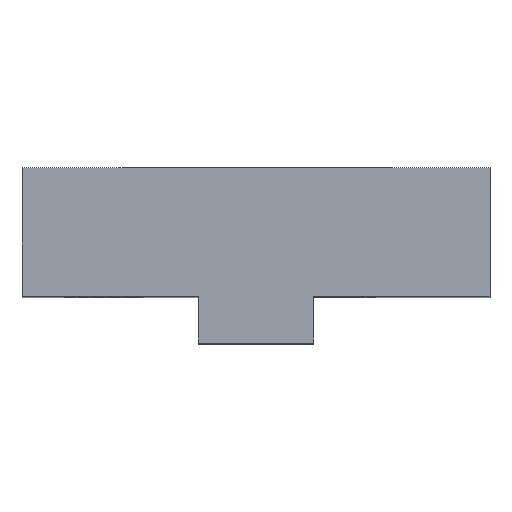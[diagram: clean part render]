
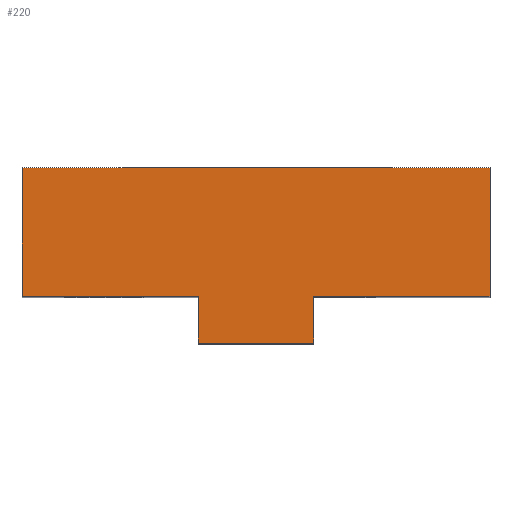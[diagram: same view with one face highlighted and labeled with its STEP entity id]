
A CAD part, top view. The second image highlights one B-rep face of the part: STEP entity #220.
In plain terms, the highlighted planar face has unit normal (0, 0, 1).
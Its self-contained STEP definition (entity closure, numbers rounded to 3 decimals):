
#220=ADVANCED_FACE('',(#275),#258,.T.);
#258=PLANE('',#679);
#275=FACE_OUTER_BOUND('',#286,.T.);
#286=EDGE_LOOP('',(#365,#366,#367,#368,#369,#370,#371,#372,#373));
#365=ORIENTED_EDGE('',*,*,#552,.F.);
#366=ORIENTED_EDGE('',*,*,#553,.F.);
#367=ORIENTED_EDGE('',*,*,#554,.F.);
#368=ORIENTED_EDGE('',*,*,#555,.F.);
#369=ORIENTED_EDGE('',*,*,#556,.F.);
#370=ORIENTED_EDGE('',*,*,#550,.F.);
#371=ORIENTED_EDGE('',*,*,#557,.T.);
#372=ORIENTED_EDGE('',*,*,#558,.F.);
#373=ORIENTED_EDGE('',*,*,#559,.F.);
#497=VERTEX_POINT('',#949);
#498=VERTEX_POINT('',#951);
#499=VERTEX_POINT('',#955);
#500=VERTEX_POINT('',#956);
#501=VERTEX_POINT('',#958);
#502=VERTEX_POINT('',#960);
#503=VERTEX_POINT('',#962);
#504=VERTEX_POINT('',#965);
#505=VERTEX_POINT('',#967);
#550=EDGE_CURVE('',#497,#498,#616,.T.);
#552=EDGE_CURVE('',#499,#500,#618,.T.);
#553=EDGE_CURVE('',#501,#499,#619,.T.);
#554=EDGE_CURVE('',#502,#501,#620,.T.);
#555=EDGE_CURVE('',#503,#502,#621,.T.);
#556=EDGE_CURVE('',#498,#503,#622,.T.);
#557=EDGE_CURVE('',#497,#504,#623,.T.);
#558=EDGE_CURVE('',#505,#504,#624,.T.);
#559=EDGE_CURVE('',#500,#505,#625,.T.);
#616=LINE('',#950,#650);
#618=LINE('',#954,#652);
#619=LINE('',#957,#653);
#620=LINE('',#959,#654);
#621=LINE('',#961,#655);
#622=LINE('',#963,#656);
#623=LINE('',#964,#657);
#624=LINE('',#966,#658);
#625=LINE('',#968,#659);
#650=VECTOR('',#764,1.);
#652=VECTOR('',#768,1.);
#653=VECTOR('',#769,1.);
#654=VECTOR('',#770,1.);
#655=VECTOR('',#771,1.);
#656=VECTOR('',#772,1.);
#657=VECTOR('',#773,1.);
#658=VECTOR('',#774,1.);
#659=VECTOR('',#775,1.);
#679=AXIS2_PLACEMENT_3D('',#969,#776,#777);
#764=DIRECTION('',(-1.,0.,0.));
#768=DIRECTION('',(-1.,0.,0.));
#769=DIRECTION('',(0.,-1.,0.));
#770=DIRECTION('',(1.,0.,0.));
#771=DIRECTION('',(1.,0.,0.));
#772=DIRECTION('',(0.,1.,0.));
#773=DIRECTION('',(0.,-1.,0.));
#774=DIRECTION('',(-1.,0.,0.));
#775=DIRECTION('',(0.,-1.,0.));
#776=DIRECTION('',(0.,0.,1.));
#777=DIRECTION('',(1.,0.,0.));
#949=CARTESIAN_POINT('',(15.05,0.,65.));
#950=CARTESIAN_POINT('',(20.,0.,65.));
#951=CARTESIAN_POINT('',(0.,0.,65.));
#954=CARTESIAN_POINT('',(20.,0.,65.));
#955=CARTESIAN_POINT('',(40.,0.,65.));
#956=CARTESIAN_POINT('',(24.95,0.,65.));
#957=CARTESIAN_POINT('',(40.,5.5,65.));
#958=CARTESIAN_POINT('',(40.,11.,65.));
#959=CARTESIAN_POINT('',(20.,11.,65.));
#960=CARTESIAN_POINT('',(20.,11.,65.));
#961=CARTESIAN_POINT('',(20.,11.,65.));
#962=CARTESIAN_POINT('',(0.,11.,65.));
#963=CARTESIAN_POINT('',(0.,5.5,65.));
#964=CARTESIAN_POINT('',(15.05,-4.,65.));
#965=CARTESIAN_POINT('',(15.05,-4.,65.));
#966=CARTESIAN_POINT('',(24.95,-4.,65.));
#967=CARTESIAN_POINT('',(24.95,-4.,65.));
#968=CARTESIAN_POINT('',(24.95,-4.,65.));
#969=CARTESIAN_POINT('',(20.,5.5,65.));
